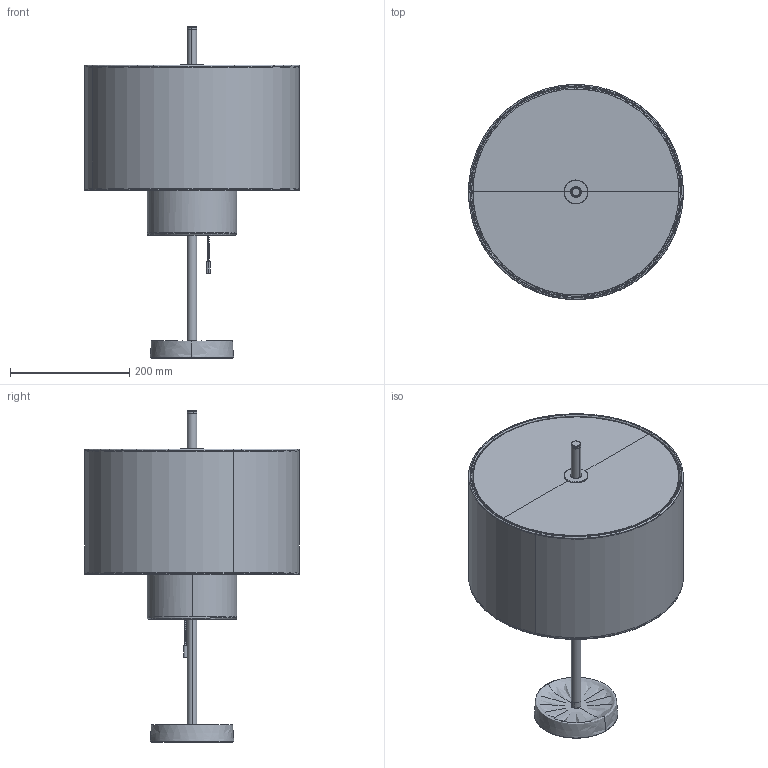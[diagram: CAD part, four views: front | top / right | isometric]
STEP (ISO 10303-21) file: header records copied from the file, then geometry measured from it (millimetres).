
FILE_DESCRIPTION (( 'STEP AP214' ), '1' );
FILE_NAME ('21340 Margin Table Lamp, no wire.STEP', '2021-11-02T15:03:16', ( '' ), ( '' ), 'SwSTEP 2.0', 'SolidWorks 2021', '' );
FILE_SCHEMA (( 'AUTOMOTIVE_DESIGN' ));
Length unit declared in the file: millimetre
Products named in the file (49): Document-37.stp; Document-25.stp; Document-3.stp; HEXNUT_M10X1_3.stp; Document-8.stp; Document-33.stp; Document-13.stp; Document-40.stp; Document-20.stp; Document-41.stp; Document-14.stp; Document-19.stp; Document-7.stp; Document-16.stp; Document.stp; Document-31.stp; Document-22.stp; Document-6.stp; Document-27.stp; Document-39.stp; Document-28.stp; Document-17.stp; Document-0.stp; 21340 Margin Table Lamp, no wire; Document-15.stp; Document-24.stp; Document-10.stp; Document-23.stp; Document-11.stp; Document-32.stp; Document-38.stp; Document-36.stp; Document-30.stp; Document-42.stp; Document-29.stp; Document-5.stp; Document-26.stp; 21340 Margin Table Lamp.stp; SERRATED_LOCK_WASHER_DIM_13INS.stp; Document-9.stp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
Assembly tree (51 placements, depth 3):
  21340 Margin Table Lamp, no wire
    21340 Margin Table Lamp.stp
      HEXNUT_M10X1_3.stp  x3
      SERRATED_LOCK_WASHER_DIM_13INS.stp  x3
      Document.stp
      Document-0.stp
      Document-1.stp
      Document-2.stp
      Document-3.stp
      Document-4.stp
      Document-5.stp
      Document-6.stp
      Document-7.stp
      Document-8.stp
      Document-9.stp
      Document-10.stp
      Document-11.stp
      Document-13.stp
      Document-14.stp
      Document-15.stp
      Document-16.stp
      Document-17.stp
      Document-18.stp
      Document-19.stp
      Document-20.stp
      Document-21.stp
      Document-22.stp
      Document-23.stp
      Document-24.stp
      Document-25.stp
      Document-26.stp
      Document-27.stp
      Document-28.stp
      Document-29.stp
      Document-30.stp
      Document-31.stp
      Document-32.stp
      Document-33.stp
      Document-34.stp
      Document-35.stp
      Document-36.stp
      Document-37.stp
      Document-38.stp
      Document-39.stp
      Document-40.stp
      Document-41.stp
      Document-42.stp
      Document-43.stp
  eBom-prt2.stp
Bounding box: 359.84 x 359.68 x 556.1 mm (x, y, z)
Volume: 1017859.4 mm3; surface area: 1210886.2 mm2
Topology: 41 solids, 59 shells, 2406 faces, 7042 edges, 4478 vertices
Faces by surface type: plane 1036, cylinder 935, bspline 435
Entity records: 88502 total; most frequent: CARTESIAN_POINT 44178, ORIENTED_EDGE 12515, EDGE_CURVE 6285, B_SPLINE_CURVE_WITH_KNOTS 4311, VERTEX_POINT 4186, DIRECTION 4030, EDGE_LOOP 2319, ADVANCED_FACE 2216
